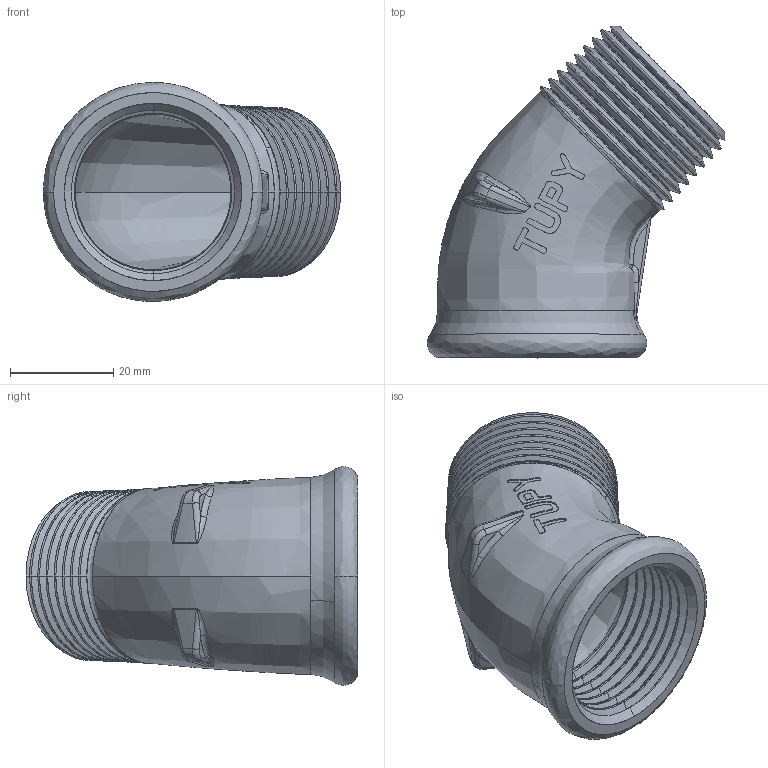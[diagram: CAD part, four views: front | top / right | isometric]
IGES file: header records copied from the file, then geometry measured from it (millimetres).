
Start section: SolidWorks IGES file using analytic representation for surfaces
Global section: file name: C:\Users\Joel Rosa\Desktop\Tubulação\12-10-XXX\12-10-007.IGS; native system: SolidWorks 2011; preprocessor: SolidWorks 2011; author: Joel Rosa; date: 121216.020924; units: millimetre
Bounding box: 57.71 x 64.42 x 42.6 mm (x, y, z)
Surface area: 16322.2 mm2 (no closed solid volume)
Topology: 0 solids, 0 shells, 306 faces, 2993 edges, 2990 vertices
Faces by surface type: bspline 232, revolution 74
